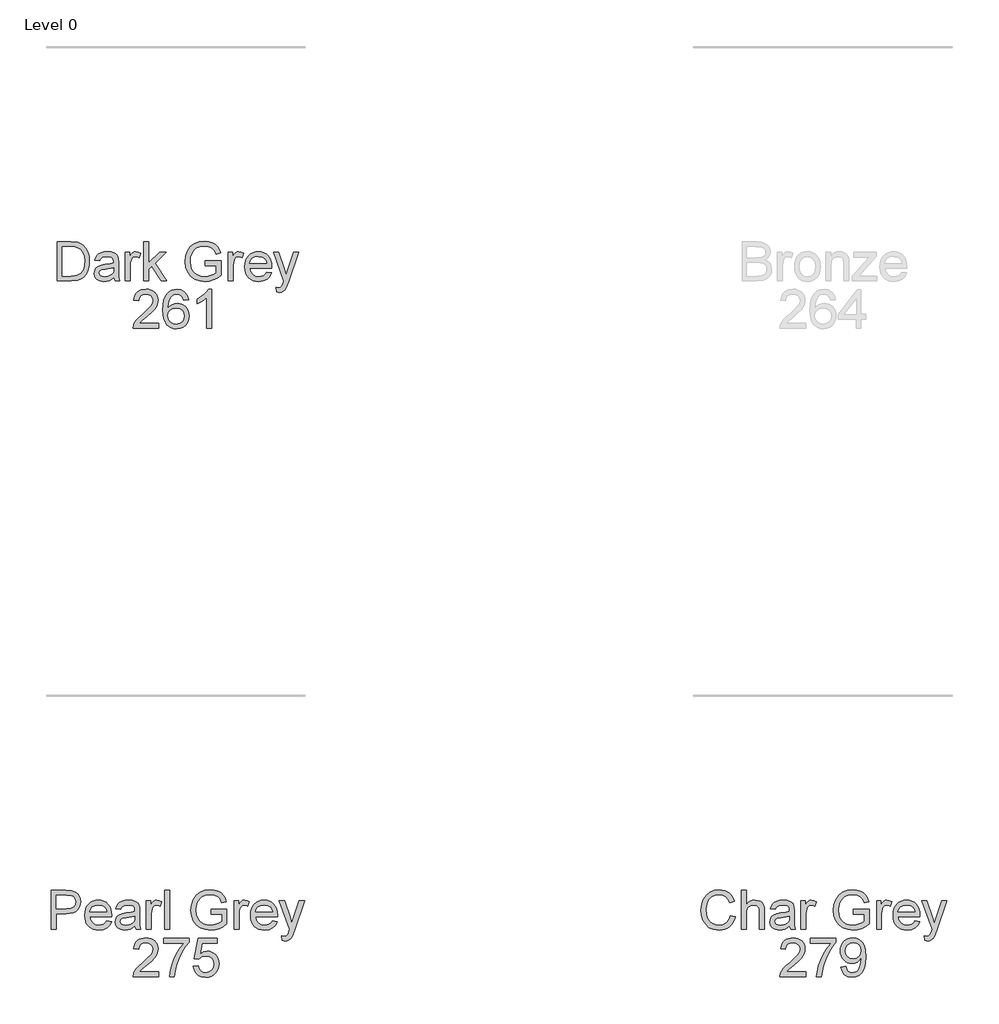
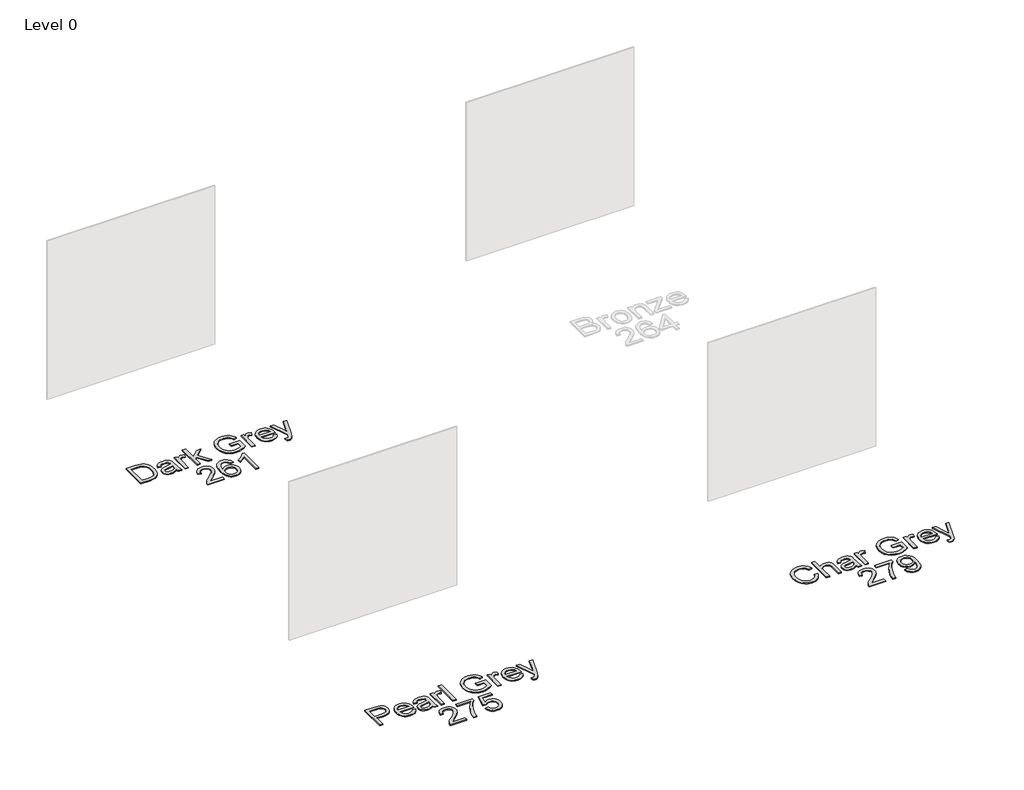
# One storey, part 2 of 15: 3 proxies.
"""IFC4 building model written with IfcOpenShell, lengths in millimetres."""

from ifc_helpers import new_model, si_unit, origin, origin_with_axes, place, context, project, spatial, polyline, outline, extrude, element, save

model = new_model("IFC4")

# Units and contexts
model_context = context("Model", 3, world=origin())
ifc_project = project(units=[si_unit("LENGTHUNIT", "METRE", prefix="MILLI")], contexts=[model_context])

# Site, building, storey
site = spatial("IfcSite", under=ifc_project)
building = spatial("IfcBuilding", under=site)
storey = spatial("IfcBuildingStorey", under=building, Name="Level 0", Elevation=0.0)

# Proxies
placement = place(None, origin())
element("IfcBuildingElementProxy", 1, Name="300mm Arial", ObjectType="300mm Arial", at=placement, inside=storey, context=model_context, shape_type="SweptSolid", body=[
    extrude(outline(polyline([(-10368.8915163, -32011.9454346), (-10368.8915163, -31710.5765041), (-10264.9280644, -31710.5765041), (-10211.1437167, -31714.9175116), (-10187.1210225, -31723.286827), (-10166.8507245, -31736.4753966), (-10146.0102095, -31759.4312331), (-10131.166171, -31787.9788759), (-10122.2818208, -31821.566502), (-10119.3203707, -31859.6422885), (-10121.3253276, -31891.988313), (-10127.3401982, -31920.4531824), (-10136.5004599, -31944.6874088), (-10147.94159, -31964.3415044), (-10161.1117654, -31979.8569275), (-10175.4591632, -31991.6751366), (-10191.9310795, -32000.4399252), (-10211.4748105, -32006.7950866), (-10259.9248693, -32011.9454346), (-10368.8915163, -32011.9454346)]), holes=[polyline([(-10331.2204, -31974.2743182), (-10264.5601824, -31974.2743182), (-10236.9874269, -31972.9131549), (-10216.0733355, -31968.8296647), (-10200.2911979, -31962.2629711), (-10188.1143038, -31953.4521973), (-10175.0269019, -31937.1458279), (-10165.1952555, -31916.0385984), (-10159.0424292, -31890.0385384), (-10156.991487, -31859.0536774), (-10161.0105978, -31817.9980467), (-10173.0679302, -31787.6845703), (-10190.8826159, -31766.8624494), (-10212.1737863, -31754.2808851), (-10233.8420358, -31749.7559366), (-10265.590252, -31748.2476204), (-10331.2204, -31748.2476204), (-10331.2204, -31974.2743182)])]), origin_with_axes(), (0.0, 0.0, 1.0), 10.0),
    extrude(outline(polyline([(-9930.9647892, -31983.6920973), (-9948.9634158, -31999.124747), (-9967.4954713, -32009.2231078), (-9986.98402, -32014.79652), (-10007.8521262, -32016.6543241), (-10039.3336279, -32012.1845578), (-10062.5561789, -31998.7752591), (-10076.8759855, -31978.4129907), (-10081.6492544, -31953.0843153), (-10079.8466327, -31937.4677246), (-10074.4387673, -31923.2858737), (-10066.0970431, -31911.1457679), (-10055.4928446, -31901.6544124), (-10029.1157055, -31889.2935774), (-9996.5213608, -31883.6281946), (-9958.0041159, -31877.6685063), (-9931.1855184, -31870.6787484), (-9930.9647892, -31862.2910389), (-9933.5583573, -31845.4788317), (-9941.3390615, -31834.4791601), (-9958.7398798, -31826.3121798), (-9982.9833033, -31823.589853), (-10005.424105, -31825.4016718), (-10021.095878, -31830.8371283), (-10031.78285, -31840.8895038), (-10039.2692486, -31856.5520798), (-10076.9403649, -31851.8431903), (-10070.4012624, -31831.2417985), (-10060.6431925, -31815.0549907), (-10046.7556472, -31802.6757616), (-10027.8281185, -31793.4971058), (-10004.679144, -31787.813329), (-9978.127261, -31785.9187367), (-9952.6606299, -31787.5925998), (-9932.4731054, -31792.614189), (-9917.2519878, -31800.164967), (-9906.6845775, -31809.4263962), (-9899.6764255, -31820.8767233), (-9895.1330829, -31834.9941949), (-9893.2936729, -31867.9564216), (-9893.2936729, -31914.8245878), (-9891.3806865, -31980.2707948), (-9883.8758938, -32011.9454346), (-9921.5470101, -32011.9454346), (-9930.9647892, -31983.6920973)]), holes=[polyline([(-9930.9647892, -31908.3498647), (-9991.7388948, -31919.9013594), (-10024.1492986, -31926.0082005), (-10038.8277902, -31935.9410143), (-10043.9781381, -31950.435565), (-10041.1730379, -31961.6375717), (-10032.7577373, -31970.8162275), (-10018.9161772, -31976.9414627), (-9999.8322987, -31978.9832078), (-9979.598789, -31976.7299306), (-9961.719724, -31969.9700989), (-9947.2251734, -31960.0096939), (-9937.1452067, -31948.1546966), (-9932.6754405, -31935.9410143), (-9931.1855184, -31919.0184426), (-9930.9647892, -31908.3498647)])]), origin_with_axes(), (0.0, 0.0, 1.0), 10.0),
    extrude(outline(polyline([(-9841.495888, -32011.9454346), (-9841.495888, -31790.6276263), (-9808.5336612, -31790.6276263), (-9808.5336612, -31823.3691238), (-9796.3567672, -31804.3864129), (-9785.1363663, -31793.2028002), (-9773.8791773, -31787.7397526), (-9761.5919186, -31785.9187367), (-9742.8299369, -31788.8250045), (-9723.7736495, -31797.5438078), (-9736.3552138, -31831.3153749), (-9749.5989656, -31825.5212335), (-9762.8427174, -31823.589853), (-9774.0907094, -31825.4476571), (-9784.1430849, -31831.0210693), (-9792.26408, -31839.8870254), (-9797.7179306, -31851.6224611), (-9802.2980614, -31872.6653112), (-9803.8247717, -31895.6211477), (-9803.8247717, -32011.9454346), (-9841.495888, -32011.9454346)])), origin_with_axes(), (0.0, 0.0, 1.0), 10.0),
    extrude(outline(polyline([(-9700.2292018, -32011.9454346), (-9700.2292018, -31710.5765041), (-9662.5580855, -31710.5765041), (-9662.5580855, -31872.5181584), (-9578.0923794, -31790.6276263), (-9526.0002889, -31790.6276263), (-9611.4960646, -31873.548228), (-9521.2913994, -32011.9454346), (-9565.290086, -32011.9454346), (-9638.498603, -31899.741426), (-9662.5580855, -31923.0651445), (-9662.5580855, -32011.9454346), (-9700.2292018, -32011.9454346)])), origin_with_axes(), (0.0, 0.0, 1.0), 10.0),
    extrude(outline(polyline([(-9224.6313585, -31894.2231961), (-9224.6313585, -31856.5520798), (-9102.2002305, -31856.5520798), (-9102.2002305, -31969.1975467), (-9131.9526868, -31989.8909089), (-9162.6432423, -32004.7349474), (-9194.1983204, -32013.6744799), (-9226.5443448, -32016.6543241), (-9268.804789, -32011.9178434), (-9307.0001372, -31997.7084013), (-9338.7299593, -31974.5226386), (-9361.5938253, -31942.8571959), (-9375.4169912, -31904.8733799), (-9380.0247132, -31862.7324973), (-9375.4353853, -31820.2881121), (-9361.6674017, -31780.805177), (-9339.2909793, -31747.6866004), (-9308.8763354, -31724.3352907), (-9271.8306185, -31710.4845336), (-9229.5609772, -31705.8676146), (-9198.5301309, -31708.5439561), (-9170.6262816, -31716.5729806), (-9147.1278191, -31729.3752741), (-9129.3131335, -31746.3714222), (-9116.133761, -31768.3799626), (-9106.541238, -31796.2194326), (-9141.2692984, -31806.0050937), (-9149.0224114, -31786.148663), (-9158.4493875, -31771.1666687), (-9170.9205872, -31759.8726915), (-9187.8063708, -31751.0803118), (-9207.9387129, -31745.4241261), (-9230.1495884, -31743.5387309), (-9256.1496484, -31745.5712789), (-9278.378918, -31751.668923), (-9296.7546236, -31761.0683079), (-9311.1939919, -31773.0060787), (-9330.5813731, -31802.0319681), (-9339.410541, -31830.4692463), (-9342.3535969, -31861.1873929), (-9338.8127327, -31897.2122373), (-9328.1901401, -31926.8543291), (-9310.8077158, -31949.9021361), (-9286.9873567, -31966.1441262), (-9259.1110985, -31975.7734374), (-9229.5609772, -31978.9832078), (-9203.4689467, -31976.5643837), (-9178.0207097, -31969.3079113), (-9155.9201988, -31959.3107181), (-9139.8713468, -31948.6697314), (-9139.8713468, -31894.2231961), (-9224.6313585, -31894.2231961)])), origin_with_axes(), (0.0, 0.0, 1.0), 10.0),
    extrude(outline(polyline([(-9045.693556, -32011.9454346), (-9045.693556, -31790.6276263), (-9012.7313292, -31790.6276263), (-9012.7313292, -31823.3691238), (-9000.5544352, -31804.3864129), (-8989.3340344, -31793.2028002), (-8978.0768453, -31787.7397526), (-8965.7895867, -31785.9187367), (-8947.0276049, -31788.8250045), (-8927.9713176, -31797.5438078), (-8940.5528818, -31831.3153749), (-8953.7966336, -31825.5212335), (-8967.0403854, -31823.589853), (-8978.2883775, -31825.4476571), (-8988.340753, -31831.0210693), (-8996.461748, -31839.8870254), (-9001.9155986, -31851.6224611), (-9006.4957294, -31872.6653112), (-9008.0224397, -31895.6211477), (-9008.0224397, -32011.9454346), (-9045.693556, -32011.9454346)])), origin_with_axes(), (0.0, 0.0, 1.0), 10.0),
    extrude(outline(polyline([(-8749.4749735, -31946.020981), (-8712.5396212, -31950.7298706), (-8725.8477524, -31978.5601435), (-8747.0837405, -31999.3638703), (-8775.7693391, -32012.3317106), (-8811.4263015, -32016.6543241), (-8834.8006038, -32014.7896222), (-8855.6273232, -32009.1955166), (-8873.9064598, -31999.8720073), (-8889.6380137, -31986.8190943), (-8902.2885558, -31970.400061), (-8911.3246573, -31950.9781909), (-8916.7463182, -31928.553484), (-8918.5535385, -31903.1259404), (-8916.7279241, -31876.8361733), (-8911.2510809, -31853.6642061), (-8902.1230089, -31833.6100389), (-8889.3437081, -31816.6736715), (-8873.653541, -31803.2183875), (-8855.7928701, -31793.6074704), (-8835.7616955, -31787.8409201), (-8813.5600171, -31785.9187367), (-8792.0734093, -31787.8363216), (-8772.6423421, -31793.5890763), (-8755.2668157, -31803.1770008), (-8739.9468298, -31816.6000951), (-8727.4411413, -31833.4996743), (-8718.5085066, -31853.5170533), (-8713.1489257, -31876.6522323), (-8711.3623988, -31902.9052112), (-8711.583128, -31913.0587542), (-8880.8824222, -31913.0587542), (-8874.3617138, -31941.2569092), (-8859.2141727, -31961.9870596), (-8837.3527851, -31974.7341707), (-8810.6905375, -31978.9832078), (-8790.6409688, -31977.0150391), (-8773.7551852, -31971.1105331), (-8760.0331868, -31960.9018077), (-8749.4749735, -31946.020981)]), holes=[polyline([(-8880.8824222, -31875.3876379), (-8749.0335151, -31875.3876379), (-8754.1286807, -31855.485222), (-8764.1166769, -31841.2481888), (-8786.079232, -31828.004437), (-8813.7071699, -31823.589853), (-8839.1002246, -31827.1123231), (-8860.0970895, -31837.6797334), (-8874.6928076, -31854.1516498), (-8880.8824222, -31875.3876379)])]), origin_with_axes(), (0.0, 0.0, 1.0), 10.0),
    extrude(outline(polyline([(-8673.6912825, -32096.7054462), (-8678.400172, -32060.4322815), (-8659.2703083, -32063.7432195), (-8641.3912433, -32059.5861529), (-8630.4283599, -32047.9978701), (-8620.127664, -32020.2595676), (-8617.184608, -32011.1360942), (-8697.2357302, -31790.6276263), (-8657.5044747, -31790.6276263), (-8615.0508925, -31913.5002126), (-8600.2620363, -31962.6492472), (-8585.4731801, -31919.2391718), (-8541.8423754, -31790.6276263), (-8502.4054255, -31790.6276263), (-8579.4399153, -32017.2429353), (-8599.4526959, -32066.3919698), (-8609.6982094, -32082.0821369), (-8621.3048864, -32092.9530499), (-8634.7877615, -32099.2990143), (-8650.6618696, -32101.4143358), (-8673.6912825, -32096.7054462)])), origin_with_axes(), (0.0, 0.0, 1.0), 10.0),
    extrude(outline(polyline([(-9584.8614081, -32340.1987718), (-9584.8614081, -32377.8698881), (-9782.6347688, -32377.8698881), (-9778.5880668, -32351.8974192), (-9769.2990464, -32331.5995301), (-9755.7058067, -32311.9086464), (-9736.0425141, -32291.2980576), (-9708.5433349, -32268.2410535), (-9667.8923745, -32232.1334357), (-9643.5017982, -32205.4803851), (-9631.30651, -32183.8489238), (-9627.241414, -32162.8060737), (-9631.0765838, -32143.9429244), (-9642.5820932, -32128.2619544), (-9660.2680201, -32117.694544), (-9682.6444425, -32114.1720739), (-9706.1429049, -32117.6117706), (-9724.3990489, -32127.9308606), (-9736.1804698, -32144.3200034), (-9740.2547629, -32165.9698589), (-9777.9258792, -32161.2609693), (-9768.7932087, -32124.8222577), (-9760.2468501, -32110.2863204), (-9749.0471426, -32098.2059954), (-9735.4516036, -32088.7100414), (-9719.7177505, -32081.9272171), (-9681.8351021, -32076.5009576), (-9661.6452783, -32078.0092738), (-9643.6765421, -32082.5342224), (-9627.9288935, -32090.0758033), (-9614.4023324, -32100.6340165), (-9603.5383172, -32113.4271129), (-9595.7783064, -32127.6733432), (-9591.1222999, -32143.3727073), (-9589.5702977, -32160.5252053), (-9591.2441608, -32178.5422261), (-9596.26575, -32196.2465471), (-9605.1776913, -32214.2543707), (-9618.5226107, -32233.1818994), (-9639.7953871, -32255.7790509), (-9672.4908994, -32284.7957433), (-9715.8273984, -32321.0321198), (-9732.8235466, -32340.1987718), (-9584.8614081, -32340.1987718)])), origin_with_axes(), (0.0, 0.0, 1.0), 10.0),
    extrude(outline(polyline([(-9354.1258208, -32156.5520798), (-9391.7969371, -32161.2609693), (-9397.86699, -32142.5909581), (-9406.0707585, -32129.8438469), (-9423.1588772, -32118.0900172), (-9443.8154512, -32114.1720739), (-9461.3266342, -32116.4529423), (-9477.8077476, -32123.2955474), (-9491.9620073, -32137.7073246), (-9503.522699, -32157.5453612), (-9511.3309944, -32185.6055604), (-9514.2280651, -32224.6838253), (-9499.1173121, -32207.0530807), (-9481.0083209, -32194.6278663), (-9460.9127669, -32187.2610293), (-9439.8423256, -32184.805417), (-9421.7425315, -32186.4838786), (-9405.0406889, -32191.5192634), (-9389.7367979, -32199.9115714), (-9375.8308585, -32211.6608027), (-9364.2747653, -32226.0679813), (-9356.020413, -32242.4341316), (-9351.0678017, -32260.7592534), (-9349.4169312, -32281.043347), (-9352.5255341, -32308.0182943), (-9361.8513427, -32333.0250729), (-9376.6218048, -32354.2334699), (-9396.0643682, -32369.8132724), (-9419.2961162, -32379.3874013), (-9445.434132, -32382.5787776), (-9467.8910285, -32380.4634562), (-9488.1728228, -32374.1174917), (-9506.2795147, -32363.5408844), (-9522.2111044, -32348.7336341), (-9535.1996381, -32329.0703414), (-9544.4771621, -32303.9256071), (-9550.0436766, -32273.299431), (-9551.8991814, -32237.1918131), (-9549.8390422, -32196.7109981), (-9543.6586247, -32162.1622802), (-9533.3579288, -32133.5456595), (-9518.9369546, -32110.861136), (-9503.3065683, -32095.828558), (-9485.1837816, -32085.0910022), (-9464.5685943, -32078.6484688), (-9441.4610064, -32076.5009576), (-9408.4068092, -32081.8168525), (-9381.9376996, -32097.764537), (-9363.3964471, -32123.0932123), (-9354.1258208, -32156.5520798)]), holes=[polyline([(-9514.2280651, -32280.4547358), (-9512.0483643, -32297.1473813), (-9505.5092618, -32313.0858687), (-9495.3557187, -32326.7894731), (-9482.3326961, -32336.7774692), (-9466.6149378, -32342.8751133), (-9448.3771879, -32344.9076613), (-9423.5175621, -32340.6954125), (-9403.9738311, -32328.0586659), (-9391.3094934, -32308.1930382), (-9387.0880475, -32282.2941457), (-9391.2543111, -32257.4345199), (-9403.7531019, -32238.4794001), (-9423.6279267, -32226.47725), (-9449.9222923, -32222.4765333), (-9474.7451299, -32226.47725), (-9495.5028715, -32238.4794001), (-9509.5467667, -32256.9746674), (-9514.2280651, -32280.4547358)])]), origin_with_axes(), (0.0, 0.0, 1.0), 10.0),
    extrude(outline(polyline([(-9175.1880183, -32377.8698881), (-9212.8591346, -32377.8698881), (-9212.8591346, -32143.0140224), (-9248.5436882, -32168.4346682), (-9288.2013672, -32187.4541674), (-9288.2013672, -32151.8431903), (-9258.6144578, -32135.748353), (-9232.9822798, -32116.6000951), (-9212.7763612, -32096.2378267), (-9199.46823, -32076.5009576), (-9175.1880183, -32076.5009576), (-9175.1880183, -32377.8698881)])), origin_with_axes(), (0.0, 0.0, 1.0), 10.0),
])
element("IfcBuildingElementProxy", 2, Name="300mm Arial", ObjectType="300mm Arial", at=placement, inside=storey, context=model_context, shape_type="SweptSolid", body=[
    extrude(outline(polyline([(-10413.6259669, -37021.0303751), (-10413.6259669, -36719.6614447), (-10301.9369931, -36719.6614447), (-10256.9082369, -36722.5309242), (-10236.8310771, -36727.8928043), (-10220.3039784, -36736.6208046), (-10206.9958472, -36749.1103984), (-10196.5755897, -36765.7570587), (-10189.8433492, -36785.3927602), (-10187.599269, -36806.8494775), (-10189.114483, -36825.3493434), (-10193.6601249, -36842.3684842), (-10201.2361948, -36857.9068999), (-10211.8426925, -36871.9645907), (-10226.4039217, -36883.6172529), (-10245.8441859, -36891.940583), (-10270.1634851, -36896.9345811), (-10299.3618192, -36898.5992471), (-10375.9548506, -36898.5992471), (-10375.9548506, -37021.0303751), (-10413.6259669, -37021.0303751)]), holes=[polyline([(-10375.9548506, -36860.9281308), (-10297.1545272, -36860.9281308), (-10263.750842, -36857.4700401), (-10241.6779223, -36847.0957678), (-10229.3722696, -36830.4491075), (-10225.2703854, -36808.1738527), (-10227.6892095, -36791.2512809), (-10234.9456818, -36776.9774595), (-10246.1384915, -36766.2353053), (-10260.3663277, -36759.9077349), (-10298.037444, -36757.332561), (-10375.9548506, -36757.332561), (-10375.9548506, -36860.9281308)])]), origin_with_axes(), (0.0, 0.0, 1.0), 10.0),
    extrude(outline(polyline([(-9985.5584773, -36955.1059216), (-9948.623125, -36959.8148111), (-9961.9312562, -36987.6450841), (-9983.1672443, -37008.4488109), (-10011.8528429, -37021.4166512), (-10047.5098053, -37025.7392647), (-10070.8841076, -37023.8745628), (-10091.710827, -37018.2804572), (-10109.9899636, -37008.9569479), (-10125.7215175, -36995.9040349), (-10138.3720596, -36979.4850016), (-10147.4081611, -36960.0631315), (-10152.829822, -36937.6384246), (-10154.6370423, -36912.2108809), (-10152.8114279, -36885.9211139), (-10147.3345847, -36862.7491467), (-10138.2065127, -36842.6949794), (-10125.4272119, -36825.7586121), (-10109.7370448, -36812.3033281), (-10091.8763739, -36802.692411), (-10071.8451993, -36796.9258607), (-10049.6435209, -36795.0036773), (-10028.1569131, -36796.9212622), (-10008.7258459, -36802.6740169), (-9991.3503195, -36812.2619414), (-9976.0303336, -36825.6850357), (-9963.524645, -36842.5846148), (-9954.5920104, -36862.6019939), (-9949.2324295, -36885.7371729), (-9947.4459026, -36911.9901518), (-9947.6666318, -36922.1436948), (-10116.965926, -36922.1436948), (-10110.4452176, -36950.3418497), (-10095.2976765, -36971.0720002), (-10073.4362889, -36983.8191113), (-10046.7740413, -36988.0681484), (-10026.7244726, -36986.0999797), (-10009.838689, -36980.1954737), (-9996.1166906, -36969.9867483), (-9985.5584773, -36955.1059216)]), holes=[polyline([(-10116.965926, -36884.4725785), (-9985.1170189, -36884.4725785), (-9990.2121845, -36864.5701626), (-10000.2001807, -36850.3331294), (-10022.1627358, -36837.0893775), (-10049.7906737, -36832.6747936), (-10075.1837284, -36836.1972637), (-10096.1805932, -36846.764674), (-10110.7763114, -36863.2365903), (-10116.965926, -36884.4725785)])]), origin_with_axes(), (0.0, 0.0, 1.0), 10.0),
    extrude(outline(polyline([(-9768.5081001, -36992.7770379), (-9786.5067268, -37008.2096876), (-9805.0387823, -37018.3080484), (-9824.527331, -37023.8814606), (-9845.3954371, -37025.7392647), (-9876.8769389, -37021.2694984), (-9900.0994898, -37007.8601997), (-9914.4192965, -36987.4979313), (-9919.1925654, -36962.1692559), (-9917.3899436, -36946.5526652), (-9911.9820783, -36932.3708143), (-9903.640354, -36920.2307084), (-9893.0361555, -36910.739353), (-9866.6590165, -36898.3785179), (-9834.0646717, -36892.7131352), (-9795.5474268, -36886.7534469), (-9768.7288293, -36879.763689), (-9768.5081001, -36871.3759795), (-9771.1016682, -36854.5637723), (-9778.8823724, -36843.5641006), (-9796.2831908, -36835.3971204), (-9820.5266143, -36832.6747936), (-9842.967416, -36834.4866124), (-9858.639189, -36839.9220689), (-9869.3261609, -36849.9744444), (-9876.8125595, -36865.6370204), (-9914.4836758, -36860.9281308), (-9907.9445734, -36840.3267391), (-9898.1865034, -36824.1399313), (-9884.2989581, -36811.7607022), (-9865.3714295, -36802.5820464), (-9842.2224549, -36796.8982696), (-9815.6705719, -36795.0036773), (-9790.2039408, -36796.6775404), (-9770.0164163, -36801.6991296), (-9754.7952988, -36809.2499075), (-9744.2278885, -36818.5113368), (-9737.2197365, -36829.9616639), (-9732.6763938, -36844.0791354), (-9730.8369838, -36877.0413622), (-9730.8369838, -36923.9095284), (-9728.9239975, -36989.3557353), (-9721.4192048, -37021.0303751), (-9759.0903211, -37021.0303751), (-9768.5081001, -36992.7770379)]), holes=[polyline([(-9768.5081001, -36917.4348053), (-9829.2822057, -36928.9862999), (-9861.6926095, -36935.093141), (-9876.3711011, -36945.0259549), (-9881.5214491, -36959.5205055), (-9878.7163488, -36970.7225123), (-9870.3010482, -36979.9011681), (-9856.4594881, -36986.0264033), (-9837.3756096, -36988.0681484), (-9817.1420999, -36985.8148711), (-9799.2630349, -36979.0550395), (-9784.7684843, -36969.0946345), (-9774.6885177, -36957.2396372), (-9770.2187514, -36945.0259549), (-9768.7288293, -36928.1033831), (-9768.5081001, -36917.4348053)])]), origin_with_axes(), (0.0, 0.0, 1.0), 10.0),
    extrude(outline(polyline([(-9679.0391989, -37021.0303751), (-9679.0391989, -36799.7125668), (-9646.0769721, -36799.7125668), (-9646.0769721, -36832.4540644), (-9633.9000781, -36813.4713534), (-9622.6796773, -36802.2877408), (-9611.4224882, -36796.8246932), (-9599.1352296, -36795.0036773), (-9580.3732478, -36797.909945), (-9561.3169605, -36806.6287483), (-9573.8985247, -36840.4003155), (-9587.1422765, -36834.6061741), (-9600.3860283, -36832.6747936), (-9611.6340203, -36834.5325977), (-9621.6863959, -36840.1060099), (-9629.8073909, -36848.971966), (-9635.2612415, -36860.7074016), (-9639.8413723, -36881.7502517), (-9641.3680826, -36904.7060882), (-9641.3680826, -37021.0303751), (-9679.0391989, -37021.0303751)])), origin_with_axes(), (0.0, 0.0, 1.0), 10.0),
    extrude(outline(polyline([(-9537.7725128, -37021.0303751), (-9537.7725128, -36719.6614447), (-9500.1013965, -36719.6614447), (-9500.1013965, -37021.0303751), (-9537.7725128, -37021.0303751)])), origin_with_axes(), (0.0, 0.0, 1.0), 10.0),
    extrude(outline(polyline([(-9179.8969079, -36903.3081367), (-9179.8969079, -36865.6370204), (-9057.4657799, -36865.6370204), (-9057.4657799, -36978.2824873), (-9087.2182362, -36998.9758495), (-9117.9087917, -37013.819888), (-9149.4638698, -37022.7594205), (-9181.8098942, -37025.7392647), (-9224.0703384, -37021.002784), (-9262.2656866, -37006.7933419), (-9293.9955087, -36983.6075792), (-9316.8593747, -36951.9421364), (-9330.6825406, -36913.9583204), (-9335.2902626, -36871.8174379), (-9330.7009347, -36829.3730527), (-9316.9329511, -36789.8901176), (-9294.5565287, -36756.7715409), (-9264.1418848, -36733.4202313), (-9227.0961678, -36719.5694742), (-9184.8265266, -36714.9525551), (-9153.7956803, -36717.6288966), (-9125.891831, -36725.6579212), (-9102.3933685, -36738.4602146), (-9084.5786829, -36755.4563628), (-9071.3993104, -36777.4649032), (-9061.8067874, -36805.3043731), (-9096.5348478, -36815.0900342), (-9104.2879608, -36795.2336035), (-9113.7149369, -36780.2516093), (-9126.1861366, -36768.957632), (-9143.0719201, -36760.1652523), (-9163.2042623, -36754.5090667), (-9185.4151378, -36752.6236714), (-9211.4151978, -36754.6562195), (-9233.6444674, -36760.7538635), (-9252.020173, -36770.1532485), (-9266.4595413, -36782.0910193), (-9285.8469225, -36811.1169087), (-9294.6760904, -36839.5541869), (-9297.6191463, -36870.2723335), (-9294.0782821, -36906.2971779), (-9283.4556895, -36935.9392696), (-9266.0732652, -36958.9870766), (-9242.252906, -36975.2290667), (-9214.3766479, -36984.8583779), (-9184.8265266, -36988.0681484), (-9158.7344961, -36985.6493242), (-9133.2862591, -36978.3928519), (-9111.1857482, -36968.3956587), (-9095.1368962, -36957.754672), (-9095.1368962, -36903.3081367), (-9179.8969079, -36903.3081367)])), origin_with_axes(), (0.0, 0.0, 1.0), 10.0),
    extrude(outline(polyline([(-9000.9591054, -37021.0303751), (-9000.9591054, -36799.7125668), (-8967.9968786, -36799.7125668), (-8967.9968786, -36832.4540644), (-8955.8199846, -36813.4713534), (-8944.5995837, -36802.2877408), (-8933.3423947, -36796.8246932), (-8921.0551361, -36795.0036773), (-8902.2931543, -36797.909945), (-8883.2368669, -36806.6287483), (-8895.8184312, -36840.4003155), (-8909.062183, -36834.6061741), (-8922.3059348, -36832.6747936), (-8933.5539268, -36834.5325977), (-8943.6063024, -36840.1060099), (-8951.7272974, -36848.971966), (-8957.181148, -36860.7074016), (-8961.7612788, -36881.7502517), (-8963.2879891, -36904.7060882), (-8963.2879891, -37021.0303751), (-9000.9591054, -37021.0303751)])), origin_with_axes(), (0.0, 0.0, 1.0), 10.0),
    extrude(outline(polyline([(-8704.7405229, -36955.1059216), (-8667.8051706, -36959.8148111), (-8681.1133017, -36987.6450841), (-8702.3492899, -37008.4488109), (-8731.0348885, -37021.4166512), (-8766.6918509, -37025.7392647), (-8790.0661531, -37023.8745628), (-8810.8928726, -37018.2804572), (-8829.1720092, -37008.9569479), (-8844.903563, -36995.9040349), (-8857.5541052, -36979.4850016), (-8866.5902067, -36960.0631315), (-8872.0118676, -36937.6384246), (-8873.8190879, -36912.2108809), (-8871.9934735, -36885.9211139), (-8866.5166303, -36862.7491467), (-8857.3885583, -36842.6949794), (-8844.6092575, -36825.7586121), (-8828.9190904, -36812.3033281), (-8811.0584195, -36802.692411), (-8791.0272449, -36796.9258607), (-8768.8255664, -36795.0036773), (-8747.3389587, -36796.9212622), (-8727.9078915, -36802.6740169), (-8710.532365, -36812.2619414), (-8695.2123792, -36825.6850357), (-8682.7066906, -36842.5846148), (-8673.7740559, -36862.6019939), (-8668.4144751, -36885.7371729), (-8666.6279482, -36911.9901518), (-8666.8486774, -36922.1436948), (-8836.1479716, -36922.1436948), (-8829.6272632, -36950.3418497), (-8814.479722, -36971.0720002), (-8792.6183345, -36983.8191113), (-8765.9560869, -36988.0681484), (-8745.9065181, -36986.0999797), (-8729.0207346, -36980.1954737), (-8715.2987361, -36969.9867483), (-8704.7405229, -36955.1059216)]), holes=[polyline([(-8836.1479716, -36884.4725785), (-8704.2990645, -36884.4725785), (-8709.3942301, -36864.5701626), (-8719.3822263, -36850.3331294), (-8741.3447814, -36837.0893775), (-8768.9727192, -36832.6747936), (-8794.365774, -36836.1972637), (-8815.3626388, -36846.764674), (-8829.958357, -36863.2365903), (-8836.1479716, -36884.4725785)])]), origin_with_axes(), (0.0, 0.0, 1.0), 10.0),
    extrude(outline(polyline([(-8628.9568319, -37105.7903868), (-8633.6657214, -37069.5172221), (-8614.5358577, -37072.82816), (-8596.6567927, -37068.6710935), (-8585.6939092, -37057.0828106), (-8575.3932134, -37029.3445082), (-8572.4501574, -37020.2210347), (-8652.5012796, -36799.7125668), (-8612.7700241, -36799.7125668), (-8570.3164418, -36922.5851532), (-8555.5275856, -36971.7341878), (-8540.7387294, -36928.3241123), (-8497.1079248, -36799.7125668), (-8457.6709749, -36799.7125668), (-8534.7054647, -37026.3278759), (-8554.7182453, -37075.4769104), (-8564.9637588, -37091.1670775), (-8576.5704358, -37102.0379905), (-8590.0533109, -37108.3839549), (-8605.927419, -37110.4992763), (-8628.9568319, -37105.7903868)])), origin_with_axes(), (0.0, 0.0, 1.0), 10.0),
    extrude(outline(polyline([(-9584.8614081, -37349.2837124), (-9584.8614081, -37386.9548287), (-9782.6347688, -37386.9548287), (-9778.5880668, -37360.9823598), (-9769.2990464, -37340.6844707), (-9755.7058067, -37320.9935869), (-9736.0425141, -37300.3829981), (-9708.5433349, -37277.3259941), (-9667.8923745, -37241.2183763), (-9643.5017982, -37214.5653257), (-9631.30651, -37192.9338644), (-9627.241414, -37171.8910143), (-9631.0765838, -37153.027865), (-9642.5820932, -37137.3468949), (-9660.2680201, -37126.7794846), (-9682.6444425, -37123.2570145), (-9706.1429049, -37126.6967112), (-9724.3990489, -37137.0158011), (-9736.1804698, -37153.404944), (-9740.2547629, -37175.0547994), (-9777.9258792, -37170.3459099), (-9768.7932087, -37133.9071983), (-9760.2468501, -37119.3712609), (-9749.0471426, -37107.2909359), (-9735.4516036, -37097.7949819), (-9719.7177505, -37091.0121576), (-9681.8351021, -37085.5858982), (-9661.6452783, -37087.0942144), (-9643.6765421, -37091.6191629), (-9627.9288935, -37099.1607438), (-9614.4023324, -37109.7189571), (-9603.5383172, -37122.5120535), (-9595.7783064, -37136.7582837), (-9591.1222999, -37152.4576479), (-9589.5702977, -37169.6101459), (-9591.2441608, -37187.6271666), (-9596.26575, -37205.3314876), (-9605.1776913, -37223.3393113), (-9618.5226107, -37242.26684), (-9639.7953871, -37264.8639915), (-9672.4908994, -37293.8806839), (-9715.8273984, -37330.1170604), (-9732.8235466, -37349.2837124), (-9584.8614081, -37349.2837124)])), origin_with_axes(), (0.0, 0.0, 1.0), 10.0),
    extrude(outline(polyline([(-9547.1902918, -37127.9659041), (-9547.1902918, -37090.2947877), (-9349.4169312, -37090.2947877), (-9349.4169312, -37120.7554169), (-9377.6058891, -37156.4307734), (-9405.5189355, -37201.7998205), (-9430.139438, -37252.7238857), (-9448.4507643, -37305.0642965), (-9457.427085, -37344.2253349), (-9462.4302802, -37386.9548287), (-9500.1013965, -37386.9548287), (-9496.0271034, -37348.1248841), (-9485.1285993, -37301.9740878), (-9467.7001897, -37253.0549795), (-9444.0361804, -37205.9200988), (-9416.4082426, -37163.3101667), (-9387.0880475, -37127.9659041), (-9547.1902918, -37127.9659041)])), origin_with_axes(), (0.0, 0.0, 1.0), 10.0),
    extrude(outline(polyline([(-9316.4547045, -37306.9037065), (-9278.7835882, -37302.194817), (-9271.8674067, -37324.8103626), (-9259.8008772, -37341.0063675), (-9242.6391821, -37350.7460433), (-9220.4375037, -37353.9926019), (-9193.4349653, -37349.4768504), (-9173.2014555, -37335.9295959), (-9160.564709, -37314.914337), (-9156.3524602, -37287.994572), (-9160.2979946, -37262.6475025), (-9172.1345978, -37243.2601213), (-9191.9542402, -37230.9544686), (-9219.8488925, -37226.8525844), (-9238.1234306, -37228.4896592), (-9252.9214839, -37233.4008839), (-9274.0746986, -37250.397032), (-9311.7458149, -37245.6881425), (-9278.7835882, -37090.2947877), (-9132.8080125, -37090.2947877), (-9132.8080125, -37127.9659041), (-9248.322959, -37127.9659041), (-9264.4361903, -37210.9600822), (-9237.5256224, -37194.6261216), (-9209.3274675, -37189.181468), (-9190.9816522, -37190.8691267), (-9174.1303576, -37195.9321027), (-9158.7735835, -37204.3703959), (-9144.9113301, -37216.1840065), (-9133.4357111, -37230.650966), (-9125.2388404, -37247.0493059), (-9120.320718, -37265.3790263), (-9118.6813439, -37285.6401272), (-9124.5858499, -37323.3112435), (-9131.9664824, -37340.1050566), (-9142.299368, -37355.5377063), (-9157.9527468, -37371.3428365), (-9176.2180879, -37382.6322152), (-9197.0953911, -37389.4058424), (-9220.5846565, -37391.6637182), (-9257.5843882, -37385.8603797), (-9273.263059, -37378.6062066), (-9287.0609331, -37368.4503643), (-9298.5411506, -37355.8986905), (-9307.2668516, -37341.4570229), (-9316.4547045, -37306.9037065)])), origin_with_axes(), (0.0, 0.0, 1.0), 10.0),
])
element("IfcBuildingElementProxy", 3, Name="300mm Arial", ObjectType="300mm Arial", at=placement, inside=storey, context=model_context, shape_type="SweptSolid", body=[
    extrude(outline(polyline([(-5166.4092661, -36913.9031381), (-5128.7381498, -36923.6152228), (-5136.1923587, -36947.0424081), (-5146.1205741, -36967.5127419), (-5158.5227959, -36985.0262241), (-5173.399024, -36999.5828548), (-5190.4135663, -37011.0262841), (-5209.2307304, -37019.2001622), (-5229.8505162, -37024.104489), (-5252.2729238, -37025.7392647), (-5295.9681078, -37020.7912518), (-5330.668577, -37005.9472133), (-5357.2664452, -36981.7221839), (-5376.6538264, -36948.6311985), (-5388.4904296, -36909.7276775), (-5392.435964, -36868.0650415), (-5387.9753948, -36824.1215372), (-5374.5936872, -36786.1745094), (-5352.989817, -36755.4287717), (-5323.8627601, -36733.0891375), (-5289.3186407, -36719.4867007), (-5251.4635834, -36714.9525551), (-5210.1596324, -36720.820273), (-5192.1908962, -36728.1549202), (-5176.0109862, -36738.4234264), (-5161.8866168, -36751.3544786), (-5150.0845026, -36766.6767637), (-5133.4470394, -36804.4950328), (-5171.1181557, -36813.4713534), (-5184.1779665, -36785.9997655), (-5202.0202433, -36767.1550102), (-5224.8657152, -36756.2565061), (-5252.9351114, -36752.6236714), (-5285.2903329, -36756.6519793), (-5311.869807, -36768.7369028), (-5332.0389374, -36787.6092492), (-5345.1631276, -36811.9998255), (-5352.3644176, -36839.572581), (-5354.7648477, -36867.9914651), (-5351.9229592, -36902.7931019), (-5343.397294, -36932.8858491), (-5328.8659552, -36957.1200755), (-5308.0070461, -36974.3461499), (-5283.0002674, -36984.6376487), (-5256.0253201, -36988.0681484), (-5224.5806066, -36983.396047), (-5198.3782115, -36969.379743), (-5178.5953572, -36946.1663891), (-5166.4092661, -36913.9031381)])), origin_with_axes(), (0.0, 0.0, 1.0), 10.0),
    extrude(outline(polyline([(-5081.6492544, -37021.0303751), (-5081.6492544, -36719.6614447), (-5043.9781381, -36719.6614447), (-5043.9781381, -36830.4675016), (-5030.1411766, -36814.9520785), (-5014.6027608, -36803.8696334), (-4997.3628908, -36797.2201663), (-4978.4215666, -36795.0036773), (-4955.6680652, -36797.4225014), (-4936.1151371, -36804.6789738), (-4920.7192756, -36816.2028773), (-4910.4369739, -36831.4239948), (-4904.6428325, -36852.3380862), (-4902.711452, -36880.9409114), (-4902.711452, -37021.0303751), (-4940.3825683, -37021.0303751), (-4940.3825683, -36884.8404605), (-4943.3808065, -36861.2592246), (-4952.3755213, -36845.109205), (-4966.8700719, -36835.7833964), (-4986.3678177, -36832.6747936), (-5002.287911, -36834.771721), (-5017.2331171, -36841.0625031), (-5029.6123462, -36850.9401347), (-5037.8345088, -36863.7976104), (-5042.4422308, -36880.8857291), (-5043.9781381, -36903.4552895), (-5043.9781381, -37021.0303751), (-5081.6492544, -37021.0303751)])), origin_with_axes(), (0.0, 0.0, 1.0), 10.0),
    extrude(outline(polyline([(-4709.6469809, -36992.7770379), (-4727.6456075, -37008.2096876), (-4746.177663, -37018.3080484), (-4765.6662117, -37023.8814606), (-4786.5343179, -37025.7392647), (-4818.0158196, -37021.2694984), (-4841.2383706, -37007.8601997), (-4855.5581772, -36987.4979313), (-4860.3314461, -36962.1692559), (-4858.5288244, -36946.5526652), (-4853.120959, -36932.3708143), (-4844.7792348, -36920.2307084), (-4834.1750363, -36910.739353), (-4807.7978972, -36898.3785179), (-4775.2035525, -36892.7131352), (-4736.6863076, -36886.7534469), (-4709.8677101, -36879.763689), (-4709.6469809, -36871.3759795), (-4712.240549, -36854.5637723), (-4720.0212532, -36843.5641006), (-4737.4220715, -36835.3971204), (-4761.665495, -36832.6747936), (-4784.1062967, -36834.4866124), (-4799.7780697, -36839.9220689), (-4810.4650417, -36849.9744444), (-4817.9514403, -36865.6370204), (-4855.6225566, -36860.9281308), (-4849.0834541, -36840.3267391), (-4839.3253842, -36824.1399313), (-4825.4378389, -36811.7607022), (-4806.5103102, -36802.5820464), (-4783.3613357, -36796.8982696), (-4756.8094527, -36795.0036773), (-4731.3428216, -36796.6775404), (-4711.1552971, -36801.6991296), (-4695.9341795, -36809.2499075), (-4685.3667692, -36818.5113368), (-4678.3586172, -36829.9616639), (-4673.8152746, -36844.0791354), (-4671.9758646, -36877.0413622), (-4671.9758646, -36923.9095284), (-4670.0628782, -36989.3557353), (-4662.5580855, -37021.0303751), (-4700.2292018, -37021.0303751), (-4709.6469809, -36992.7770379)]), holes=[polyline([(-4709.6469809, -36917.4348053), (-4770.4210865, -36928.9862999), (-4802.8314903, -36935.093141), (-4817.5099819, -36945.0259549), (-4822.6603298, -36959.5205055), (-4819.8552296, -36970.7225123), (-4811.439929, -36979.9011681), (-4797.5983689, -36986.0264033), (-4778.5144904, -36988.0681484), (-4758.2809807, -36985.8148711), (-4740.4019157, -36979.0550395), (-4725.9073651, -36969.0946345), (-4715.8273984, -36957.2396372), (-4711.3576322, -36945.0259549), (-4709.8677101, -36928.1033831), (-4709.6469809, -36917.4348053)])]), origin_with_axes(), (0.0, 0.0, 1.0), 10.0),
    extrude(outline(polyline([(-4620.1780797, -37021.0303751), (-4620.1780797, -36799.7125668), (-4587.2158529, -36799.7125668), (-4587.2158529, -36832.4540644), (-4575.0389589, -36813.4713534), (-4563.818558, -36802.2877408), (-4552.561369, -36796.8246932), (-4540.2741103, -36795.0036773), (-4521.5121286, -36797.909945), (-4502.4558412, -36806.6287483), (-4515.0374055, -36840.4003155), (-4528.2811573, -36834.6061741), (-4541.5249091, -36832.6747936), (-4552.7729011, -36834.5325977), (-4562.8252766, -36840.1060099), (-4570.9462717, -36848.971966), (-4576.4001223, -36860.7074016), (-4580.9802531, -36881.7502517), (-4582.5069634, -36904.7060882), (-4582.5069634, -37021.0303751), (-4620.1780797, -37021.0303751)])), origin_with_axes(), (0.0, 0.0, 1.0), 10.0),
    extrude(outline(polyline([(-4215.2135794, -36903.3081367), (-4215.2135794, -36865.6370204), (-4092.7824514, -36865.6370204), (-4092.7824514, -36978.2824873), (-4122.5349078, -36998.9758495), (-4153.2254632, -37013.819888), (-4184.7805413, -37022.7594205), (-4217.1265658, -37025.7392647), (-4259.38701, -37021.002784), (-4297.5823581, -37006.7933419), (-4329.3121802, -36983.6075792), (-4352.1760462, -36951.9421364), (-4365.9992122, -36913.9583204), (-4370.6069342, -36871.8174379), (-4366.0176063, -36829.3730527), (-4352.2496226, -36789.8901176), (-4329.8732002, -36756.7715409), (-4299.4585563, -36733.4202313), (-4262.4128394, -36719.5694742), (-4220.1431981, -36714.9525551), (-4189.1123518, -36717.6288966), (-4161.2085025, -36725.6579212), (-4137.7100401, -36738.4602146), (-4119.8953544, -36755.4563628), (-4106.715982, -36777.4649032), (-4097.1234589, -36805.3043731), (-4131.8515193, -36815.0900342), (-4139.6046323, -36795.2336035), (-4149.0316085, -36780.2516093), (-4161.5028081, -36768.957632), (-4178.3885917, -36760.1652523), (-4198.5209339, -36754.5090667), (-4220.7318093, -36752.6236714), (-4246.7318693, -36754.6562195), (-4268.9611389, -36760.7538635), (-4287.3368445, -36770.1532485), (-4301.7762129, -36782.0910193), (-4321.163594, -36811.1169087), (-4329.9927619, -36839.5541869), (-4332.9358179, -36870.2723335), (-4329.3949536, -36906.2971779), (-4318.772361, -36935.9392696), (-4301.3899368, -36958.9870766), (-4277.5695776, -36975.2290667), (-4249.6933194, -36984.8583779), (-4220.1431981, -36988.0681484), (-4194.0511676, -36985.6493242), (-4168.6029306, -36978.3928519), (-4146.5024197, -36968.3956587), (-4130.4535677, -36957.754672), (-4130.4535677, -36903.3081367), (-4215.2135794, -36903.3081367)])), origin_with_axes(), (0.0, 0.0, 1.0), 10.0),
    extrude(outline(polyline([(-4036.2757769, -37021.0303751), (-4036.2757769, -36799.7125668), (-4003.3135502, -36799.7125668), (-4003.3135502, -36832.4540644), (-3991.1366561, -36813.4713534), (-3979.9162553, -36802.2877408), (-3968.6590662, -36796.8246932), (-3956.3718076, -36795.0036773), (-3937.6098258, -36797.909945), (-3918.5535385, -36806.6287483), (-3931.1351027, -36840.4003155), (-3944.3788545, -36834.6061741), (-3957.6226064, -36832.6747936), (-3968.8705984, -36834.5325977), (-3978.9229739, -36840.1060099), (-3987.0439689, -36848.971966), (-3992.4978195, -36860.7074016), (-3997.0779504, -36881.7502517), (-3998.6046606, -36904.7060882), (-3998.6046606, -37021.0303751), (-4036.2757769, -37021.0303751)])), origin_with_axes(), (0.0, 0.0, 1.0), 10.0),
    extrude(outline(polyline([(-3740.0571944, -36955.1059216), (-3703.1218421, -36959.8148111), (-3716.4299733, -36987.6450841), (-3737.6659615, -37008.4488109), (-3766.35156, -37021.4166512), (-3802.0085224, -37025.7392647), (-3825.3828247, -37023.8745628), (-3846.2095441, -37018.2804572), (-3864.4886808, -37008.9569479), (-3880.2202346, -36995.9040349), (-3892.8707767, -36979.4850016), (-3901.9068782, -36960.0631315), (-3907.3285391, -36937.6384246), (-3909.1357594, -36912.2108809), (-3907.310145, -36885.9211139), (-3901.8333018, -36862.7491467), (-3892.7052298, -36842.6949794), (-3879.925929, -36825.7586121), (-3864.2357619, -36812.3033281), (-3846.375091, -36802.692411), (-3826.3439164, -36796.9258607), (-3804.142238, -36795.0036773), (-3782.6556302, -36796.9212622), (-3763.2245631, -36802.6740169), (-3745.8490366, -36812.2619414), (-3730.5290507, -36825.6850357), (-3718.0233622, -36842.5846148), (-3709.0907275, -36862.6019939), (-3703.7311467, -36885.7371729), (-3701.9446197, -36911.9901518), (-3702.1653489, -36922.1436948), (-3871.4646431, -36922.1436948), (-3864.9439347, -36950.3418497), (-3849.7963936, -36971.0720002), (-3827.935006, -36983.8191113), (-3801.2727584, -36988.0681484), (-3781.2231897, -36986.0999797), (-3764.3374061, -36980.1954737), (-3750.6154077, -36969.9867483), (-3740.0571944, -36955.1059216)]), holes=[polyline([(-3871.4646431, -36884.4725785), (-3739.615736, -36884.4725785), (-3744.7109017, -36864.5701626), (-3754.6988978, -36850.3331294), (-3776.6614529, -36837.0893775), (-3804.2893908, -36832.6747936), (-3829.6824455, -36836.1972637), (-3850.6793104, -36846.764674), (-3865.2750285, -36863.2365903), (-3871.4646431, -36884.4725785)])]), origin_with_axes(), (0.0, 0.0, 1.0), 10.0),
    extrude(outline(polyline([(-3664.2735034, -37105.7903868), (-3668.982393, -37069.5172221), (-3649.8525292, -37072.82816), (-3631.9734642, -37068.6710935), (-3621.0105808, -37057.0828106), (-3610.7098849, -37029.3445082), (-3607.766829, -37020.2210347), (-3687.8179511, -36799.7125668), (-3648.0866956, -36799.7125668), (-3605.6331134, -36922.5851532), (-3590.8442572, -36971.7341878), (-3576.055401, -36928.3241123), (-3532.4245963, -36799.7125668), (-3492.9876465, -36799.7125668), (-3570.0221363, -37026.3278759), (-3590.0349168, -37075.4769104), (-3600.2804304, -37091.1670775), (-3611.8871073, -37102.0379905), (-3625.3699824, -37108.3839549), (-3641.2440905, -37110.4992763), (-3664.2735034, -37105.7903868)])), origin_with_axes(), (0.0, 0.0, 1.0), 10.0),
    extrude(outline(polyline([(-4584.8614081, -37349.2837124), (-4584.8614081, -37386.9548287), (-4782.6347688, -37386.9548287), (-4778.5880668, -37360.9823598), (-4769.2990464, -37340.6844707), (-4755.7058067, -37320.9935869), (-4736.0425141, -37300.3829981), (-4708.5433349, -37277.3259941), (-4667.8923745, -37241.2183763), (-4643.5017982, -37214.5653257), (-4631.30651, -37192.9338644), (-4627.241414, -37171.8910143), (-4631.0765838, -37153.027865), (-4642.5820932, -37137.3468949), (-4660.2680201, -37126.7794846), (-4682.6444425, -37123.2570145), (-4706.1429049, -37126.6967112), (-4724.3990489, -37137.0158011), (-4736.1804698, -37153.404944), (-4740.2547629, -37175.0547994), (-4777.9258792, -37170.3459099), (-4768.7932087, -37133.9071983), (-4760.2468501, -37119.3712609), (-4749.0471426, -37107.2909359), (-4735.4516036, -37097.7949819), (-4719.7177505, -37091.0121576), (-4681.8351021, -37085.5858982), (-4661.6452783, -37087.0942144), (-4643.6765421, -37091.6191629), (-4627.9288935, -37099.1607438), (-4614.4023324, -37109.7189571), (-4603.5383172, -37122.5120535), (-4595.7783064, -37136.7582837), (-4591.1222999, -37152.4576479), (-4589.5702977, -37169.6101459), (-4591.2441608, -37187.6271666), (-4596.26575, -37205.3314876), (-4605.1776913, -37223.3393113), (-4618.5226107, -37242.26684), (-4639.7953871, -37264.8639915), (-4672.4908994, -37293.8806839), (-4715.8273984, -37330.1170604), (-4732.8235466, -37349.2837124), (-4584.8614081, -37349.2837124)])), origin_with_axes(), (0.0, 0.0, 1.0), 10.0),
    extrude(outline(polyline([(-4547.1902918, -37127.9659041), (-4547.1902918, -37090.2947877), (-4349.4169312, -37090.2947877), (-4349.4169312, -37120.7554169), (-4377.6058891, -37156.4307734), (-4405.5189355, -37201.7998205), (-4430.139438, -37252.7238857), (-4448.4507643, -37305.0642965), (-4457.427085, -37344.2253349), (-4462.4302802, -37386.9548287), (-4500.1013965, -37386.9548287), (-4496.0271034, -37348.1248841), (-4485.1285993, -37301.9740878), (-4467.7001897, -37253.0549795), (-4444.0361804, -37205.9200988), (-4416.4082426, -37163.3101667), (-4387.0880475, -37127.9659041), (-4547.1902918, -37127.9659041)])), origin_with_axes(), (0.0, 0.0, 1.0), 10.0),
    extrude(outline(polyline([(-4311.7458149, -37311.612596), (-4274.0746986, -37306.9037065), (-4267.6367637, -37328.2868475), (-4257.1521268, -37342.8457774), (-4242.8783054, -37351.2058958), (-4225.0728169, -37353.9926019), (-4209.0975412, -37352.1991772), (-4194.5753995, -37346.818903), (-4182.50887, -37338.4403905), (-4173.9004313, -37327.652251), (-4161.5763845, -37294.9107535), (-4156.131731, -37251.2063724), (-4156.3524602, -37243.8487325), (-4169.4030739, -37259.7780229), (-4186.4819956, -37272.3963754), (-4206.3568204, -37280.618538), (-4227.7951436, -37283.3592588), (-4245.6903034, -37281.6853957), (-4262.1461249, -37276.6638065), (-4277.1626081, -37268.2944911), (-4290.739753, -37256.5774496), (-4301.9900443, -37242.1242857), (-4310.0259666, -37225.5466033), (-4314.84752, -37206.8444023), (-4316.4547045, -37186.0176829), (-4314.7693451, -37164.4965862), (-4309.7132669, -37145.1827814), (-4301.28647, -37128.0762687), (-4289.4889542, -37113.1770478), (-4275.1530527, -37101.1059199), (-4259.1110985, -37092.4836856), (-4241.3630915, -37087.3103451), (-4221.9090317, -37085.5858982), (-4193.8120443, -37089.5222356), (-4168.2350486, -37101.3312476), (-4146.8427106, -37120.4243232), (-4131.2996963, -37146.212851), (-4121.835932, -37181.8606163), (-4118.6813439, -37230.5314043), (-4121.8267349, -37282.1360512), (-4131.2629081, -37322.0236565), (-4146.9070899, -37351.9968421), (-4168.676507, -37373.8582296), (-4195.6330602, -37387.2123461), (-4226.8386504, -37391.6637182), (-4259.0467191, -37386.4122027), (-4284.7432765, -37370.6576563), (-4302.7143119, -37345.3933603), (-4311.7458149, -37311.612596)]), holes=[polyline([(-4156.3524602, -37185.1347661), (-4160.4175562, -37159.6037556), (-4172.6128444, -37139.9588571), (-4191.540373, -37127.4324752), (-4215.8021906, -37123.2570145), (-4240.9653191, -37127.7543719), (-4261.1252524, -37141.2464441), (-4274.3690042, -37161.8938211), (-4278.7835882, -37187.8570929), (-4274.6081275, -37211.1348261), (-4262.0817456, -37229.6116993), (-4242.4184529, -37241.6690317), (-4216.8322602, -37245.6881425), (-4192.7635806, -37241.6690317), (-4173.3853965, -37229.6116993), (-4160.6106943, -37210.4542444), (-4156.3524602, -37185.1347661)])]), origin_with_axes(), (0.0, 0.0, 1.0), 10.0),
])

save(model, "model.ifc")
